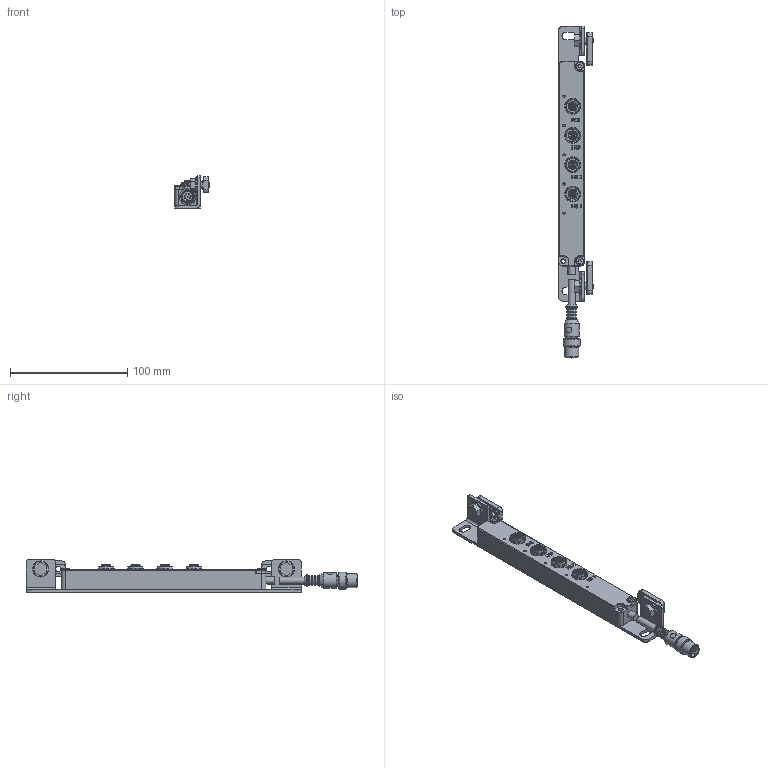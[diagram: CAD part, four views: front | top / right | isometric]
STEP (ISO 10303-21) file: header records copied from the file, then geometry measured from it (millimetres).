
FILE_DESCRIPTION((''),'2;1');
FILE_NAME('M:\INVENTORjob\Konstruktion\Freigabe Projektübergreifende Bauteile\Sensormodule\AC-SCM5U\520152_01_AC-SCM5U-BT-L.stp','2015-10-21T16:57:39',('phaberl'),(''),'Autodesk Inventor 2009','Autodesk Inventor 2009','');
FILE_SCHEMA(('AUTOMOTIVE_DESIGN { 1 0 10303 214 1 1 1 1 }'));
Length unit declared in the file: millimetre
Products named in the file (6): 520152_01_AC-SCM5U-BT-L; 347033_01_Winkel AC-SCM8; 150022_SCM5U; NUTENSTEIN-M6_vereinfacht; DIN 912 - ersetzt durch DIN EN ISO 4762 M4 x 16; 101899 Schraube-Sperrzahn M6x10
Assembly tree (8 placements, depth 2):
  520152_01_AC-SCM5U-BT-L
    347033_01_Winkel AC-SCM8
    150022_SCM5U
    NUTENSTEIN-M6_vereinfacht  x2
    DIN 912 - ersetzt durch DIN EN ISO 4762 M4 x 16  x2
    101899 Schraube-Sperrzahn M6x10  x2
Bounding box: 29.5 x 283.58 x 28 mm (x, y, z)
Volume: 90594.5 mm3; surface area: 38509 mm2
Topology: 21 solids, 21 shells, 1578 faces, 4511 edges, 3084 vertices
Faces by surface type: plane 695, cylinder 402, bspline 317, cone 141, torus 12, sphere 11
Full cylindrical faces by diameter (mm): 0.8 x8, 1.2 x16, 3.242 x4, 4 x2, 4.2 x3, 4.65 x2, 5.55 x2, 6 x3, 6.2 x1, 7 x2, 7.5 x2, 8 x1, 8.5 x4, 9 x1, 10 x1, 10.8 x1, 10.9 x4, 11.25 x1, 12 x1, 12.2 x4, 13 x1, 13.6 x4, 13.8 x2, 14.25 x2, 14.5 x1
Entity records: 61727 total; most frequent: CARTESIAN_POINT 23762, ORIENTED_EDGE 8406, DIRECTION 6960, EDGE_CURVE 4203, VERTEX_POINT 2963, AXIS2_PLACEMENT_3D 2710, EDGE_LOOP 1812, VECTOR 1540
